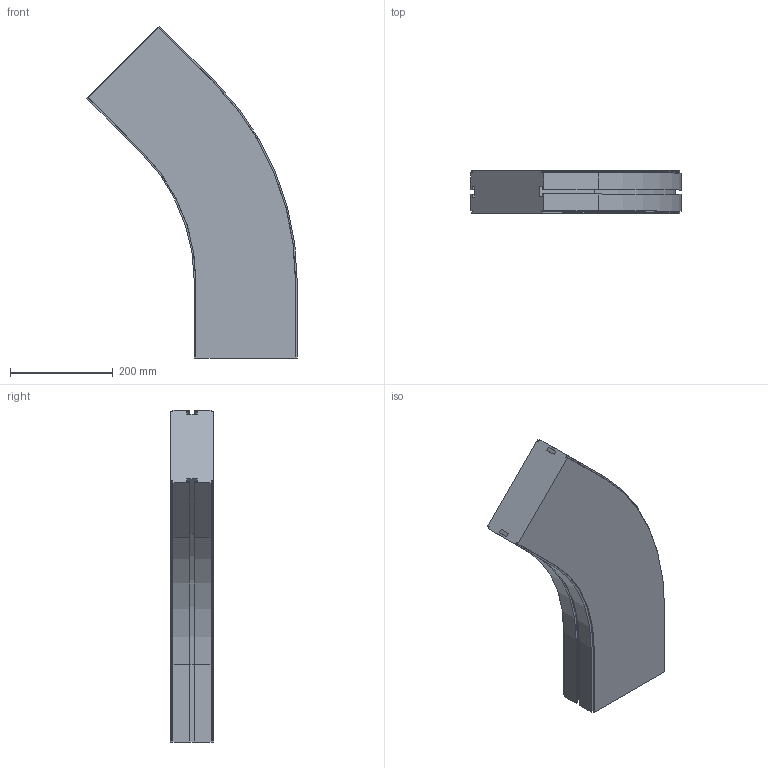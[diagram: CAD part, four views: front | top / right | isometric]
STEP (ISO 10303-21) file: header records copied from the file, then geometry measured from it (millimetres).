
FILE_DESCRIPTION (( 'STEP AP214' ), '1' );
FILE_NAME ('CS SL Horizontaalbocht.200 45° R450.STEP', '2017-02-08T07:35:41', ( '' ), ( '' ), 'SwSTEP 2.0', 'SolidWorks 2016', '' );
FILE_SCHEMA (( 'AUTOMOTIVE_DESIGN' ));
Length unit declared in the file: millimetre
Products named in the file (1): CS SL Horizontaalbocht.200 45° R450
Bounding box: 408.58 x 84 x 644.97 mm (x, y, z)
Volume: 10693126.7 mm3; surface area: 473114.3 mm2
Topology: 1 solids, 1 shells, 98 faces, 272 edges, 176 vertices
Faces by surface type: plane 72, cylinder 18, cone 8
Entity records: 3126 total; most frequent: CARTESIAN_POINT 547, ORIENTED_EDGE 544, DIRECTION 514, EDGE_CURVE 272, LINE 228, VECTOR 228, VERTEX_POINT 176, AXIS2_PLACEMENT_3D 143
